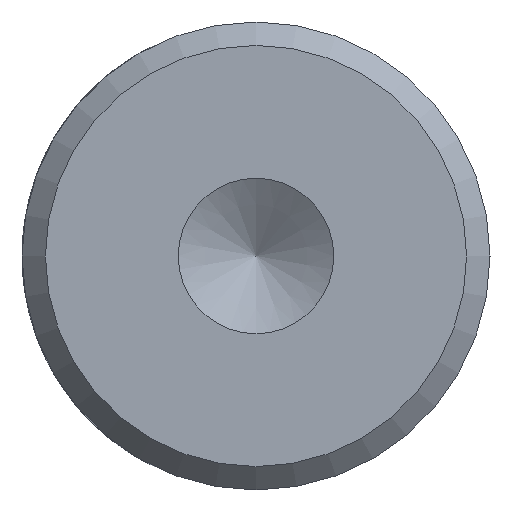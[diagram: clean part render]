
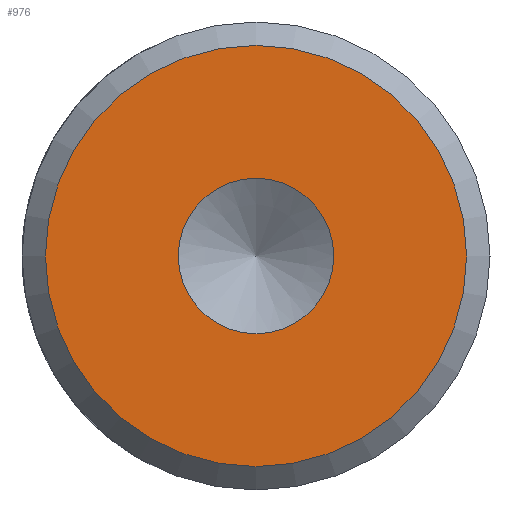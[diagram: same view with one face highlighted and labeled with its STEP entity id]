
A CAD part, left-side view. The second image highlights one B-rep face of the part: STEP entity #976.
In plain terms, the highlighted planar face has unit normal (-1, 0, 0).
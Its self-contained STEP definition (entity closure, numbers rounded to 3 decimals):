
#15=PLANE('',#1090);
#47=FACE_BOUND('',#190,.T.);
#134=FACE_OUTER_BOUND('',#189,.T.);
#189=EDGE_LOOP('',(#779));
#190=EDGE_LOOP('',(#780));
#402=CIRCLE('',#1050,3.324);
#405=CIRCLE('',#1056,9.);
#413=VERTEX_POINT('',#1413);
#417=VERTEX_POINT('',#1426);
#515=EDGE_CURVE('',#413,#413,#402,.T.);
#521=EDGE_CURVE('',#417,#417,#405,.T.);
#779=ORIENTED_EDGE('',*,*,#521,.F.);
#780=ORIENTED_EDGE('',*,*,#515,.T.);
#976=ADVANCED_FACE('',(#134,#47),#15,.F.);
#1050=AXIS2_PLACEMENT_3D('',#1414,#1148,#1149);
#1056=AXIS2_PLACEMENT_3D('',#1427,#1163,#1164);
#1090=AXIS2_PLACEMENT_3D('',#1923,#1263,#1264);
#1148=DIRECTION('center_axis',(1.,0.,0.));
#1149=DIRECTION('ref_axis',(0.,0.,1.));
#1163=DIRECTION('center_axis',(1.,0.,0.));
#1164=DIRECTION('ref_axis',(0.,-1.,0.));
#1263=DIRECTION('center_axis',(1.,0.,0.));
#1264=DIRECTION('ref_axis',(0.,0.,-1.));
#1413=CARTESIAN_POINT('',(-120.,0.,-3.324));
#1414=CARTESIAN_POINT('Origin',(-120.,0.,0.));
#1426=CARTESIAN_POINT('',(-120.,9.,0.));
#1427=CARTESIAN_POINT('Origin',(-120.,0.,0.));
#1923=CARTESIAN_POINT('Origin',(-120.,0.,0.));
